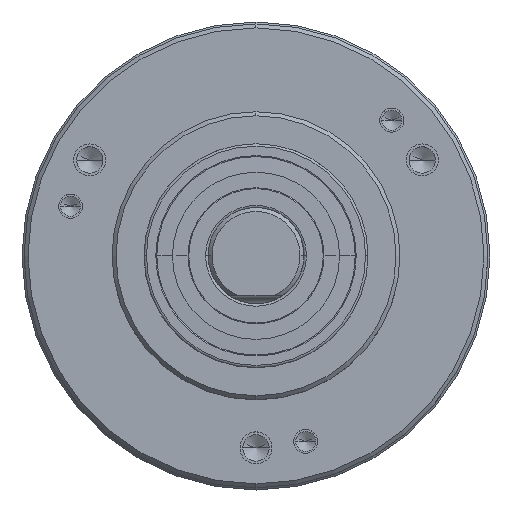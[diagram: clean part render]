
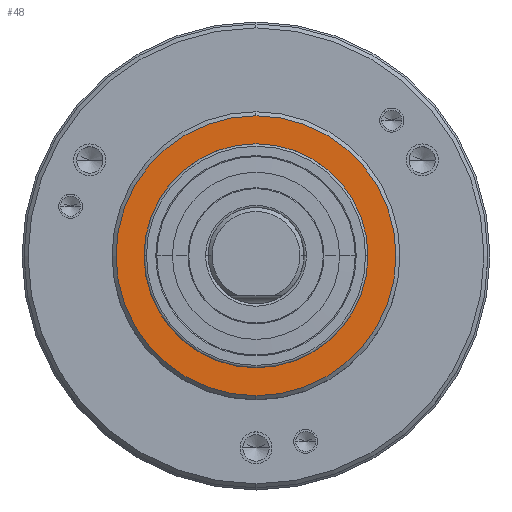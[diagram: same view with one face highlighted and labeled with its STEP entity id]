
A CAD part, top view. The second image highlights one B-rep face of the part: STEP entity #48.
In plain terms, the highlighted planar face has unit normal (0, 0, 1).
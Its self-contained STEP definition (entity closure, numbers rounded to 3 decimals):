
#47 = EDGE_CURVE ( 'NONE', #930, #886, #1736, .T. ) ;
#48 = ADVANCED_FACE ( 'NONE', ( #1731, #1737 ), #1615, .T. ) ;
#49 = EDGE_LOOP ( 'NONE', ( #50, #78 ) ) ;
#50 = ORIENTED_EDGE ( 'NONE', *, *, #1451, .T. ) ;
#78 = ORIENTED_EDGE ( 'NONE', *, *, #969, .T. ) ;
#79 = EDGE_LOOP ( 'NONE', ( #80, #85 ) ) ;
#80 = ORIENTED_EDGE ( 'NONE', *, *, #47, .F. ) ;
#85 = ORIENTED_EDGE ( 'NONE', *, *, #929, .F. ) ;
#886 = VERTEX_POINT ( 'NONE', #2964 ) ;
#929 = EDGE_CURVE ( 'NONE', #886, #930, #3273, .T. ) ;
#930 = VERTEX_POINT ( 'NONE', #3268 ) ;
#956 = VERTEX_POINT ( 'NONE', #3112 ) ;
#969 = EDGE_CURVE ( 'NONE', #1056, #956, #3148, .T. ) ;
#1056 = VERTEX_POINT ( 'NONE', #3374 ) ;
#1451 = EDGE_CURVE ( 'NONE', #956, #1056, #4265, .T. ) ;
#1610 = DIRECTION ( 'NONE',  ( 0., -1., 0. ) ) ;
#1611 = DIRECTION ( 'NONE',  ( 0., 0., 1. ) ) ;
#1612 = CARTESIAN_POINT ( 'NONE',  ( 0., 0., 0. ) ) ;
#1613 = AXIS2_PLACEMENT_3D ( 'NONE', #1612, #1611, #1610 ) ;
#1615 = PLANE ( 'NONE',  #1613 ) ;
#1731 = FACE_OUTER_BOUND ( 'NONE', #49, .T. ) ;
#1732 = DIRECTION ( 'NONE',  ( -1., 0., 0. ) ) ;
#1733 = DIRECTION ( 'NONE',  ( 0., 0., 1. ) ) ;
#1734 = CARTESIAN_POINT ( 'NONE',  ( 0., 0., 0. ) ) ;
#1735 = AXIS2_PLACEMENT_3D ( 'NONE', #1734, #1733, #1732 ) ;
#1736 = CIRCLE ( 'NONE', #1735, 14. ) ;
#1737 = FACE_BOUND ( 'NONE', #79, .T. ) ;
#2964 = CARTESIAN_POINT ( 'NONE',  ( 14., 0., 0. ) ) ;
#3112 = CARTESIAN_POINT ( 'NONE',  ( 0., 17.5, 0. ) ) ;
#3144 = DIRECTION ( 'NONE',  ( 0., -1., 0. ) ) ;
#3145 = DIRECTION ( 'NONE',  ( 0., 0., 1. ) ) ;
#3146 = CARTESIAN_POINT ( 'NONE',  ( 0., 0., 0. ) ) ;
#3147 = AXIS2_PLACEMENT_3D ( 'NONE', #3146, #3145, #3144 ) ;
#3148 = CIRCLE ( 'NONE', #3147, 17.5 ) ;
#3268 = CARTESIAN_POINT ( 'NONE',  ( -14., 0., 0. ) ) ;
#3269 = DIRECTION ( 'NONE',  ( -1., 0., 0. ) ) ;
#3270 = DIRECTION ( 'NONE',  ( 0., 0., 1. ) ) ;
#3271 = CARTESIAN_POINT ( 'NONE',  ( 0., 0., 0. ) ) ;
#3272 = AXIS2_PLACEMENT_3D ( 'NONE', #3271, #3270, #3269 ) ;
#3273 = CIRCLE ( 'NONE', #3272, 14. ) ;
#3374 = CARTESIAN_POINT ( 'NONE',  ( 0., -17.5, 0. ) ) ;
#4183 = DIRECTION ( 'NONE',  ( 0., -1., 0. ) ) ;
#4240 = CARTESIAN_POINT ( 'NONE',  ( 0., 0., 0. ) ) ;
#4263 = DIRECTION ( 'NONE',  ( 0., 0., 1. ) ) ;
#4264 = AXIS2_PLACEMENT_3D ( 'NONE', #4240, #4263, #4183 ) ;
#4265 = CIRCLE ( 'NONE', #4264, 17.5 ) ;
